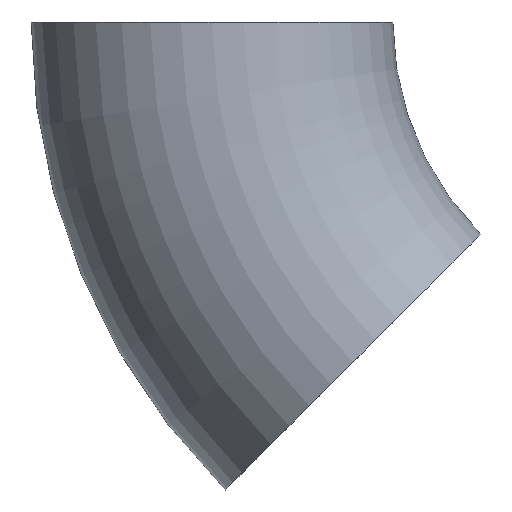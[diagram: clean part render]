
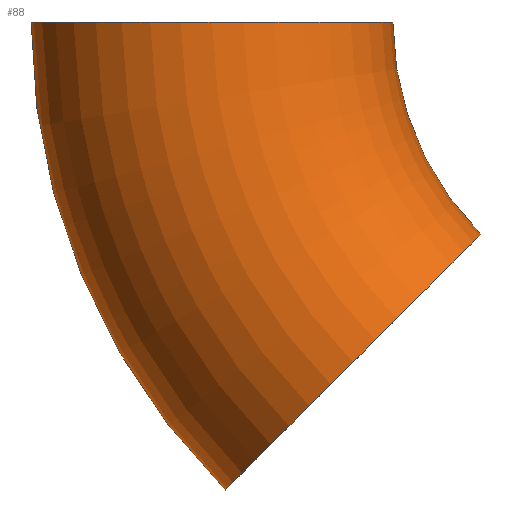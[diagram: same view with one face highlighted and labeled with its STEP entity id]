
A CAD part, front view. The second image highlights one B-rep face of the part: STEP entity #88.
In plain terms, the highlighted toroidal (fillet/blend) face has major radius 152 mm and minor radius 57.15 mm.
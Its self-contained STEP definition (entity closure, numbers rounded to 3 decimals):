
#1 = AXIS2_PLACEMENT_3D ( 'NONE', #15, #192, #101 ) ;
#9 = AXIS2_PLACEMENT_3D ( 'NONE', #114, #188, #54 ) ;
#10 = VERTEX_POINT ( 'NONE', #202 ) ;
#14 = EDGE_CURVE ( 'NONE', #227, #10, #22, .T. ) ;
#15 = CARTESIAN_POINT ( 'NONE',  ( 0., 0., 0. ) ) ;
#22 = CIRCLE ( 'NONE', #9, 209.15 ) ;
#23 = EDGE_CURVE ( 'NONE', #10, #25, #187, .T. ) ;
#25 = VERTEX_POINT ( 'NONE', #181 ) ;
#28 = DIRECTION ( 'NONE',  ( 0., 0., 1. ) ) ;
#54 = DIRECTION ( 'NONE',  ( 0., 0., 1. ) ) ;
#68 = AXIS2_PLACEMENT_3D ( 'NONE', #78, #166, #152 ) ;
#76 = CARTESIAN_POINT ( 'NONE',  ( 0., 0., 0. ) ) ;
#77 = AXIS2_PLACEMENT_3D ( 'NONE', #163, #28, #111 ) ;
#78 = CARTESIAN_POINT ( 'NONE',  ( -107.48, 0., -107.48 ) ) ;
#88 = ADVANCED_FACE ( 'NONE', ( #165 ), #162, .T. ) ;
#101 = DIRECTION ( 'NONE',  ( 0., 0., 1. ) ) ;
#106 = EDGE_LOOP ( 'NONE', ( #154, #171, #237, #195 ) ) ;
#107 = VERTEX_POINT ( 'NONE', #160 ) ;
#111 = DIRECTION ( 'NONE',  ( 1., 0., 0. ) ) ;
#114 = CARTESIAN_POINT ( 'NONE',  ( 0., 0., 0. ) ) ;
#147 = DIRECTION ( 'NONE',  ( 0., 1., 0. ) ) ;
#152 = DIRECTION ( 'NONE',  ( 0.707, 0., 0.707 ) ) ;
#154 = ORIENTED_EDGE ( 'NONE', *, *, #14, .F. ) ;
#160 = CARTESIAN_POINT ( 'NONE',  ( -67.069, 0., -67.069 ) ) ;
#162 = TOROIDAL_SURFACE ( 'NONE', #229, 152., 57.15 ) ;
#163 = CARTESIAN_POINT ( 'NONE',  ( -152., 0., 0. ) ) ;
#165 = FACE_OUTER_BOUND ( 'NONE', #106, .T. ) ;
#166 = DIRECTION ( 'NONE',  ( -0.707, 0., 0.707 ) ) ;
#171 = ORIENTED_EDGE ( 'NONE', *, *, #224, .T. ) ;
#173 = CARTESIAN_POINT ( 'NONE',  ( -147.891, 0., -147.891 ) ) ;
#181 = CARTESIAN_POINT ( 'NONE',  ( -94.85, 0., 0. ) ) ;
#187 = CIRCLE ( 'NONE', #77, 57.15 ) ;
#188 = DIRECTION ( 'NONE',  ( 0., 1., 0. ) ) ;
#192 = DIRECTION ( 'NONE',  ( 0., 1., 0. ) ) ;
#193 = CIRCLE ( 'NONE', #68, 57.15 ) ;
#195 = ORIENTED_EDGE ( 'NONE', *, *, #23, .F. ) ;
#199 = EDGE_CURVE ( 'NONE', #107, #25, #240, .T. ) ;
#202 = CARTESIAN_POINT ( 'NONE',  ( -209.15, 0., 0. ) ) ;
#207 = DIRECTION ( 'NONE',  ( 0., 0., 1. ) ) ;
#224 = EDGE_CURVE ( 'NONE', #227, #107, #193, .T. ) ;
#227 = VERTEX_POINT ( 'NONE', #173 ) ;
#229 = AXIS2_PLACEMENT_3D ( 'NONE', #76, #147, #207 ) ;
#237 = ORIENTED_EDGE ( 'NONE', *, *, #199, .T. ) ;
#240 = CIRCLE ( 'NONE', #1, 94.85 ) ;
